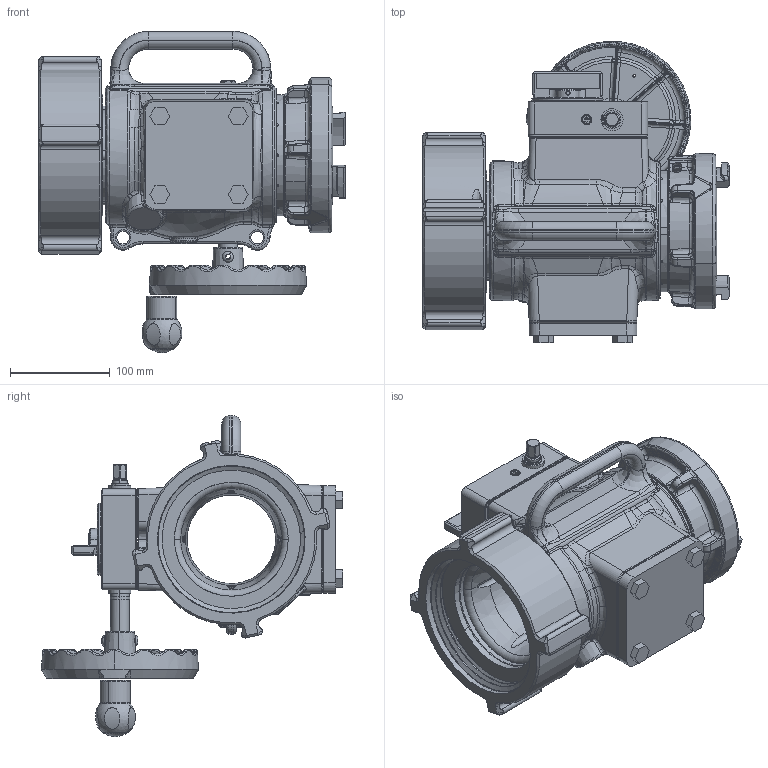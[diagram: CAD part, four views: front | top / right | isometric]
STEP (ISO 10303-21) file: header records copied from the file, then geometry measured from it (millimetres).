
FILE_DESCRIPTION (( 'STEP AP203' ), '1' );
FILE_NAME ('AN3R2P01.STEP', '2017-12-14T16:53:39', ( 'Windows User' ), ( '' ), 'SwSTEP 2.0', 'SolidWorks 2017', '' );
FILE_SCHEMA (( 'CONFIG_CONTROL_DESIGN' ));
Length unit declared in the file: inch
Products named in the file (1): AN3R2P01
Bounding box: 307.52 x 302.28 x 322.52 mm (x, y, z)
Surface area: 493769.8 mm2 (no closed solid volume)
Topology: 0 solids, 372 shells, 2421 faces, 17117 edges, 14879 vertices
Faces by surface type: plane 856, bspline 610, cylinder 468, cone 242, torus 223, sphere 22
Entity records: 233673 total; most frequent: CARTESIAN_POINT 121466, ORIENTED_EDGE 21520, DIRECTION 17571, EDGE_CURVE 17058, VERTEX_POINT 14877, VECTOR 9303, LINE 9303, B_SPLINE_CURVE_WITH_KNOTS 5116
